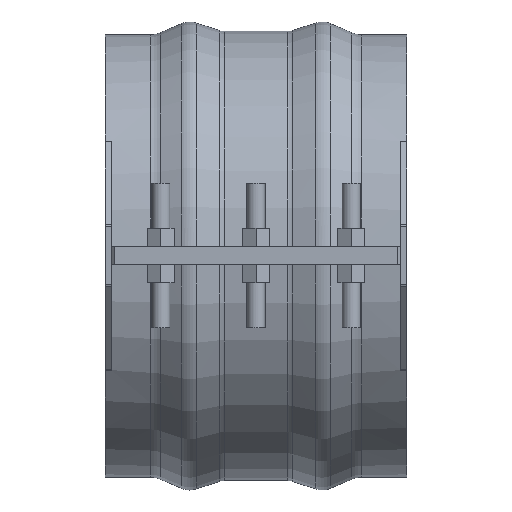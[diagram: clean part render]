
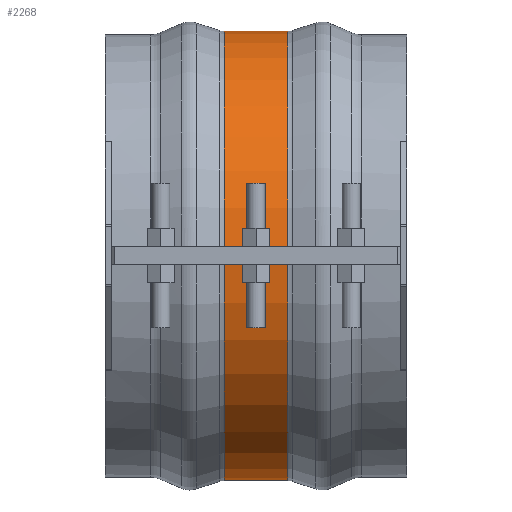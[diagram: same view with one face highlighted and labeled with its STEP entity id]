
A CAD part, top view. The second image highlights one B-rep face of the part: STEP entity #2268.
In plain terms, the highlighted cylindrical face has radius 236.839 mm (diameter 473.679 mm), a partial arc.
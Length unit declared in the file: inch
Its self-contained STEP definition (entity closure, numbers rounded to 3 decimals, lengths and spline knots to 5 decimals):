
#266=FACE_OUTER_BOUND('',#395,.T.);
#395=EDGE_LOOP('',(#1872,#1873,#1874,#1875));
#597=LINE('',#3675,#788);
#602=LINE('',#3760,#793);
#788=VECTOR('',#2968,0.3937);
#793=VECTOR('',#2977,0.3937);
#848=CIRCLE('',#2449,9.32439);
#849=CIRCLE('',#2451,9.32439);
#1054=VERTEX_POINT('',#3667);
#1055=VERTEX_POINT('',#3674);
#1066=VERTEX_POINT('',#3752);
#1067=VERTEX_POINT('',#3759);
#1333=EDGE_CURVE('',#1055,#1054,#597,.T.);
#1348=EDGE_CURVE('',#1067,#1066,#602,.T.);
#1360=EDGE_CURVE('',#1055,#1066,#848,.T.);
#1361=EDGE_CURVE('',#1054,#1067,#849,.T.);
#1872=ORIENTED_EDGE('',*,*,#1333,.T.);
#1873=ORIENTED_EDGE('',*,*,#1361,.T.);
#1874=ORIENTED_EDGE('',*,*,#1348,.T.);
#1875=ORIENTED_EDGE('',*,*,#1360,.F.);
#2053=CYLINDRICAL_SURFACE('',#2450,9.32439);
#2268=ADVANCED_FACE('',(#266),#2053,.T.);
#2449=AXIS2_PLACEMENT_3D('',#3810,#2999,#3000);
#2450=AXIS2_PLACEMENT_3D('',#3811,#3001,#3002);
#2451=AXIS2_PLACEMENT_3D('',#3812,#3003,#3004);
#2968=DIRECTION('',(-1.,0.,0.));
#2977=DIRECTION('',(1.,0.,0.));
#2999=DIRECTION('center_axis',(1.,0.,0.));
#3000=DIRECTION('ref_axis',(0.,0.,-1.));
#3001=DIRECTION('center_axis',(1.,0.,0.));
#3002=DIRECTION('ref_axis',(0.,0.,
-1.));
#3003=DIRECTION('center_axis',(1.,0.,0.));
#3004=DIRECTION('ref_axis',(0.,0.,-1.));
#3667=CARTESIAN_POINT('',(-1.31451,-0.375,9.31684));
#3674=CARTESIAN_POINT('',(1.31451,-0.375,9.31684));
#3675=CARTESIAN_POINT('',(0.,-0.375,9.31684));
#3752=CARTESIAN_POINT('',(1.31451,0.375,9.31684));
#3759=CARTESIAN_POINT('',(-1.31451,0.375,9.31684));
#3760=CARTESIAN_POINT('',(0.,0.375,9.31684));
#3810=CARTESIAN_POINT('Origin',(1.31451,0.,0.));
#3811=CARTESIAN_POINT('Origin',(0.,0.,0.));
#3812=CARTESIAN_POINT('Origin',(-1.31451,0.,
0.));
